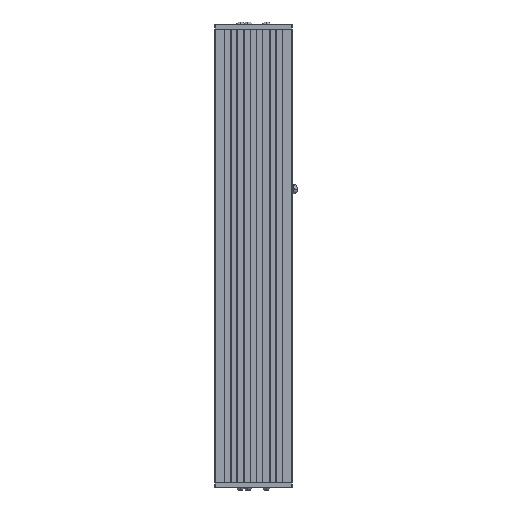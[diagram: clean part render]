
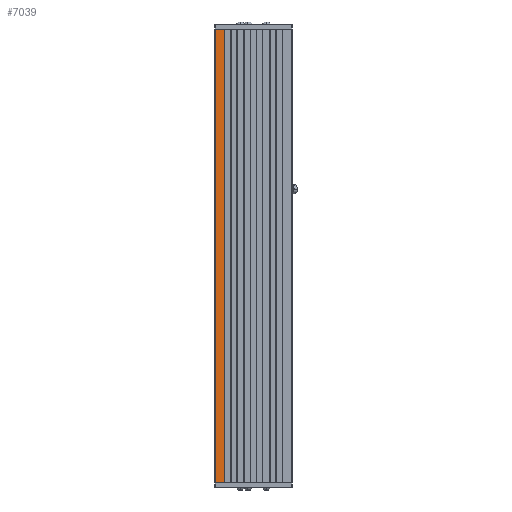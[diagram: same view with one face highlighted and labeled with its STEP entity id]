
A CAD part, front view. The second image highlights one B-rep face of the part: STEP entity #7039.
In plain terms, the highlighted planar face has unit normal (0, -1, 0).
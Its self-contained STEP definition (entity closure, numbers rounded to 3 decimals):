
#2680 = EDGE_LOOP ( 'NONE', ( #22916, #22918, #22921, #22923 ) ) ;
#3845 = LINE ( 'NONE', #33878, #3847 ) ;
#3847 = VECTOR ( 'NONE', #33879, 1000. ) ;
#3929 = LINE ( 'NONE', #33975, #3930 ) ;
#3930 = VECTOR ( 'NONE', #33976, 1000. ) ;
#4056 = LINE ( 'NONE', #4727, #4057 ) ;
#4057 = VECTOR ( 'NONE', #4728, 1000. ) ;
#4058 = LINE ( 'NONE', #4729, #4059 ) ;
#4059 = VECTOR ( 'NONE', #4730, 1000. ) ;
#4727 = CARTESIAN_POINT ( 'NONE',  ( -64.426, -36.746, 788. ) ) ;
#4728 = DIRECTION ( 'NONE',  ( 0., 0., -1. ) ) ;
#4729 = CARTESIAN_POINT ( 'NONE',  ( -49.926, -36.746, 788. ) ) ;
#4730 = DIRECTION ( 'NONE',  ( 0., 0., -1. ) ) ;
#7039 = ADVANCED_FACE ( 'NONE', ( #9602 ), #15460, .F. ) ;
#9602 = FACE_OUTER_BOUND ( 'NONE', #2680, .T. ) ;
#10704 = VERTEX_POINT ( 'NONE', #33196 ) ;
#13526 = EDGE_CURVE ( 'NONE', #28081, #21898, #3845, .T. ) ;
#13571 = EDGE_CURVE ( 'NONE', #10704, #28055, #3929, .T. ) ;
#13646 = EDGE_CURVE ( 'NONE', #10704, #28081, #4056, .T. ) ;
#13647 = EDGE_CURVE ( 'NONE', #28055, #21898, #4058, .T. ) ;
#15460 = PLANE ( 'NONE',  #25455 ) ;
#15461 = CARTESIAN_POINT ( 'NONE',  ( -66.426, -36.746, 788. ) ) ;
#15462 = DIRECTION ( 'NONE',  ( 0., 1., 0. ) ) ;
#15463 = DIRECTION ( 'NONE',  ( 0., 0., 1. ) ) ;
#21898 = VERTEX_POINT ( 'NONE', #29012 ) ;
#22916 = ORIENTED_EDGE ( 'NONE', *, *, #13571, .F. ) ;
#22918 = ORIENTED_EDGE ( 'NONE', *, *, #13646, .T. ) ;
#22921 = ORIENTED_EDGE ( 'NONE', *, *, #13526, .T. ) ;
#22923 = ORIENTED_EDGE ( 'NONE', *, *, #13647, .F. ) ;
#25455 = AXIS2_PLACEMENT_3D ( 'NONE', #15461, #15462, #15463 ) ;
#28055 = VERTEX_POINT ( 'NONE', #29130 ) ;
#28081 = VERTEX_POINT ( 'NONE', #29146 ) ;
#29012 = CARTESIAN_POINT ( 'NONE',  ( -49.926, -36.746, 0. ) ) ;
#29130 = CARTESIAN_POINT ( 'NONE',  ( -49.926, -36.746, 788. ) ) ;
#29146 = CARTESIAN_POINT ( 'NONE',  ( -64.426, -36.746, 0. ) ) ;
#33196 = CARTESIAN_POINT ( 'NONE',  ( -64.426, -36.746, 788. ) ) ;
#33878 = CARTESIAN_POINT ( 'NONE',  ( -66.426, -36.746, 0. ) ) ;
#33879 = DIRECTION ( 'NONE',  ( 1., 0., 0. ) ) ;
#33975 = CARTESIAN_POINT ( 'NONE',  ( -66.426, -36.746, 788. ) ) ;
#33976 = DIRECTION ( 'NONE',  ( 1., 0., 0. ) ) ;
